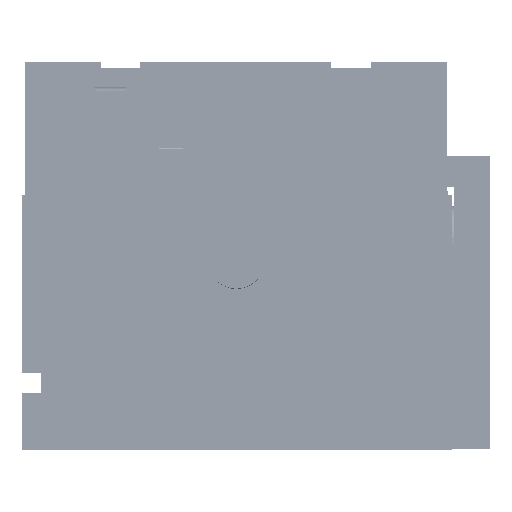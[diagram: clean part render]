
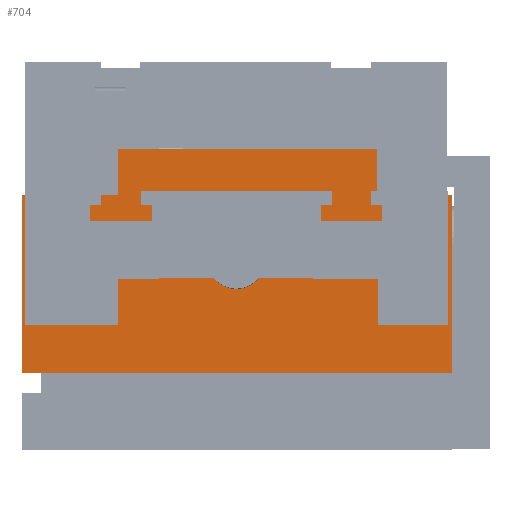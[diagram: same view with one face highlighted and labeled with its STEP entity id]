
A CAD part, left-side view. The second image highlights one B-rep face of the part: STEP entity #704.
In plain terms, the highlighted planar face has unit normal (-1, 0, 0).
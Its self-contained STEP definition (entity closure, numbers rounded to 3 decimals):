
#704 = ADVANCED_FACE( '', ( #1561 ), #1562, .F. );
#1561 = FACE_OUTER_BOUND( '', #3402, .T. );
#1562 = PLANE( '', #3403 );
#3402 = EDGE_LOOP( '', ( #11754, #11755, #11756, #11757, #11758, #11759, #11760, #11761 ) );
#3403 = AXIS2_PLACEMENT_3D( '', #11762, #11763, #11764 );
#11754 = ORIENTED_EDGE( '', *, *, #17562, .F. );
#11755 = ORIENTED_EDGE( '', *, *, #17550, .F. );
#11756 = ORIENTED_EDGE( '', *, *, #17523, .F. );
#11757 = ORIENTED_EDGE( '', *, *, #17509, .F. );
#11758 = ORIENTED_EDGE( '', *, *, #17561, .F. );
#11759 = ORIENTED_EDGE( '', *, *, #17563, .F. );
#11760 = ORIENTED_EDGE( '', *, *, #17564, .F. );
#11761 = ORIENTED_EDGE( '', *, *, #17565, .F. );
#11762 = CARTESIAN_POINT( '', ( -75.565, -35.687, 10.846 ) );
#11763 = DIRECTION( '', ( 1., 0., 0. ) );
#11764 = DIRECTION( '', ( 0., 1., 0. ) );
#17509 = EDGE_CURVE( '', #19352, #19354, #19355, .T. );
#17523 = EDGE_CURVE( '', #19354, #19378, #19379, .T. );
#17550 = EDGE_CURVE( '', #19378, #19422, #19423, .T. );
#17561 = EDGE_CURVE( '', #19440, #19352, #19442, .T. );
#17562 = EDGE_CURVE( '', #19422, #19443, #19444, .T. );
#17563 = EDGE_CURVE( '', #19445, #19440, #19446, .T. );
#17564 = EDGE_CURVE( '', #19447, #19445, #19448, .T. );
#17565 = EDGE_CURVE( '', #19443, #19447, #19449, .T. );
#19352 = VERTEX_POINT( '', #22533 );
#19354 = VERTEX_POINT( '', #22536 );
#19355 = LINE( '', #22537, #22538 );
#19378 = VERTEX_POINT( '', #22572 );
#19379 = LINE( '', #22573, #22574 );
#19422 = VERTEX_POINT( '', #22643 );
#19423 = LINE( '', #22644, #22645 );
#19440 = VERTEX_POINT( '', #22669 );
#19442 = LINE( '', #22672, #22673 );
#19443 = VERTEX_POINT( '', #22674 );
#19444 = LINE( '', #22675, #22676 );
#19445 = VERTEX_POINT( '', #22677 );
#19446 = LINE( '', #22678, #22679 );
#19447 = VERTEX_POINT( '', #22680 );
#19448 = LINE( '', #22681, #22682 );
#19449 = LINE( '', #22683, #22684 );
#22533 = CARTESIAN_POINT( '', ( -75.565, -23.318, 10.846 ) );
#22536 = CARTESIAN_POINT( '', ( -75.565, -35.687, 10.846 ) );
#22537 = CARTESIAN_POINT( '', ( -75.565, -23.318, 10.846 ) );
#22538 = VECTOR( '', #43858, 1000. );
#22572 = CARTESIAN_POINT( '', ( -75.565, -35.687, -18.72 ) );
#22573 = CARTESIAN_POINT( '', ( -75.565, -35.687, 10.846 ) );
#22574 = VECTOR( '', #43876, 1000. );
#22643 = CARTESIAN_POINT( '', ( -75.565, 35.433, -18.72 ) );
#22644 = CARTESIAN_POINT( '', ( -75.565, -35.687, -18.72 ) );
#22645 = VECTOR( '', #43903, 1000. );
#22669 = CARTESIAN_POINT( '', ( -75.565, -23.318, 18.364 ) );
#22672 = CARTESIAN_POINT( '', ( -75.565, -23.318, 18.364 ) );
#22673 = VECTOR( '', #43918, 1000. );
#22674 = CARTESIAN_POINT( '', ( -75.565, 35.433, 10.846 ) );
#22675 = CARTESIAN_POINT( '', ( -75.565, 35.433, -18.72 ) );
#22676 = VECTOR( '', #43919, 1000. );
#22677 = CARTESIAN_POINT( '', ( -75.565, 19.568, 18.364 ) );
#22678 = CARTESIAN_POINT( '', ( -75.565, 19.568, 18.364 ) );
#22679 = VECTOR( '', #43920, 1000. );
#22680 = CARTESIAN_POINT( '', ( -75.565, 19.568, 10.846 ) );
#22681 = CARTESIAN_POINT( '', ( -75.565, 19.568, 18.364 ) );
#22682 = VECTOR( '', #43921, 1000. );
#22683 = CARTESIAN_POINT( '', ( -75.565, 19.568, 10.846 ) );
#22684 = VECTOR( '', #43922, 1000. );
#43858 = DIRECTION( '', ( 0., -1., 0. ) );
#43876 = DIRECTION( '', ( 0., 0., -1. ) );
#43903 = DIRECTION( '', ( 0., 1., 0. ) );
#43918 = DIRECTION( '', ( 0., 0., -1. ) );
#43919 = DIRECTION( '', ( 0., 0., 1. ) );
#43920 = DIRECTION( '', ( 0., -1., 0. ) );
#43921 = DIRECTION( '', ( 0., 0., 1. ) );
#43922 = DIRECTION( '', ( 0., -1., 0. ) );
